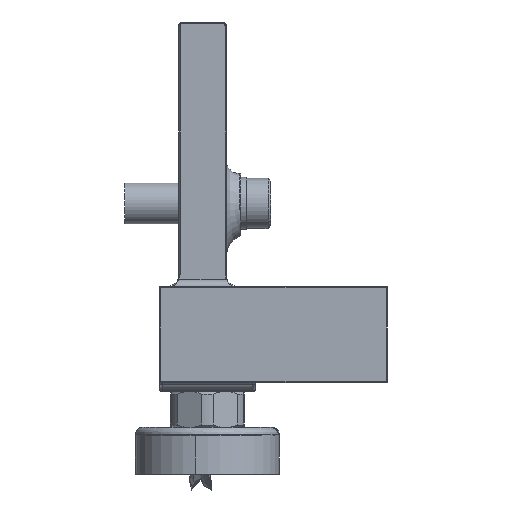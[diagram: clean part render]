
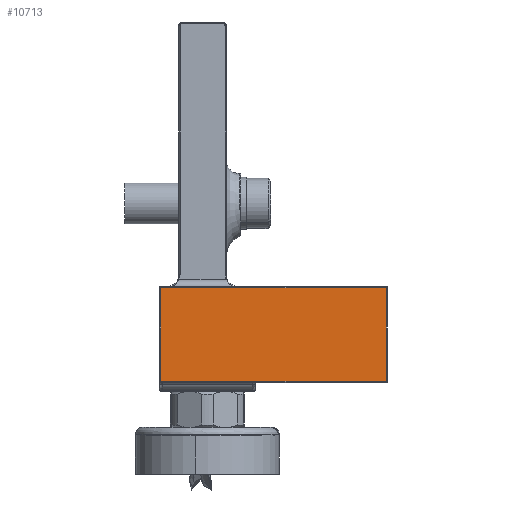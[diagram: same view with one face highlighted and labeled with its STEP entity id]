
A CAD part, left-side view. The second image highlights one B-rep face of the part: STEP entity #10713.
In plain terms, the highlighted planar face has unit normal (-1, 0, 0).
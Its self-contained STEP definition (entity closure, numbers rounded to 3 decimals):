
#37 = CARTESIAN_POINT ( 'NONE',  ( -126., 20., 20.4 ) ) ;
#782 = LINE ( 'NONE', #68078, #9611 ) ;
#2294 = CARTESIAN_POINT ( 'NONE',  ( -126., -74.5, 20.4 ) ) ;
#3369 = VERTEX_POINT ( 'NONE', #8771 ) ;
#4298 = ORIENTED_EDGE ( 'NONE', *, *, #15832, .T. ) ;
#6402 = DIRECTION ( 'NONE',  ( 0., -1., 0. ) ) ;
#8771 = CARTESIAN_POINT ( 'NONE',  ( -126., 19.5, 19.9 ) ) ;
#9611 = VECTOR ( 'NONE', #6402, 1000. ) ;
#10713 = ADVANCED_FACE ( 'NONE', ( #62023 ), #14089, .T. ) ;
#13176 = EDGE_LOOP ( 'NONE', ( #69209, #22890, #4298, #49989 ) ) ;
#13736 = DIRECTION ( 'NONE',  ( 0., 0., -1. ) ) ;
#14089 = PLANE ( 'NONE',  #49475 ) ;
#15832 = EDGE_CURVE ( 'NONE', #3369, #23189, #34046, .T. ) ;
#16782 = EDGE_CURVE ( 'NONE', #56212, #57917, #66027, .T. ) ;
#22318 = CARTESIAN_POINT ( 'NONE',  ( -126., -74.5, 19.9 ) ) ;
#22890 = ORIENTED_EDGE ( 'NONE', *, *, #66465, .T. ) ;
#23189 = VERTEX_POINT ( 'NONE', #41945 ) ;
#29206 = DIRECTION ( 'NONE',  ( 0., 0., 1. ) ) ;
#34046 = LINE ( 'NONE', #44845, #51089 ) ;
#35161 = CARTESIAN_POINT ( 'NONE',  ( -126., 20., 19.9 ) ) ;
#38967 = EDGE_CURVE ( 'NONE', #23189, #56212, #782, .T. ) ;
#41356 = DIRECTION ( 'NONE',  ( -1., 0., 0. ) ) ;
#41945 = CARTESIAN_POINT ( 'NONE',  ( -126., 19.5, -19.1 ) ) ;
#44845 = CARTESIAN_POINT ( 'NONE',  ( -126., 19.5, 20.4 ) ) ;
#49261 = CARTESIAN_POINT ( 'NONE',  ( -126., -74.5, -19.1 ) ) ;
#49475 = AXIS2_PLACEMENT_3D ( 'NONE', #37, #41356, #67948 ) ;
#49989 = ORIENTED_EDGE ( 'NONE', *, *, #38967, .T. ) ;
#51089 = VECTOR ( 'NONE', #13736, 1000. ) ;
#56212 = VERTEX_POINT ( 'NONE', #49261 ) ;
#56477 = DIRECTION ( 'NONE',  ( 0., 1., 0. ) ) ;
#57917 = VERTEX_POINT ( 'NONE', #22318 ) ;
#58466 = VECTOR ( 'NONE', #56477, 1000. ) ;
#62023 = FACE_OUTER_BOUND ( 'NONE', #13176, .T. ) ;
#65832 = VECTOR ( 'NONE', #29206, 1000. ) ;
#66027 = LINE ( 'NONE', #2294, #65832 ) ;
#66465 = EDGE_CURVE ( 'NONE', #57917, #3369, #67014, .T. ) ;
#67014 = LINE ( 'NONE', #35161, #58466 ) ;
#67948 = DIRECTION ( 'NONE',  ( 0., 0., -1. ) ) ;
#68078 = CARTESIAN_POINT ( 'NONE',  ( -126., 20., -19.1 ) ) ;
#69209 = ORIENTED_EDGE ( 'NONE', *, *, #16782, .T. ) ;
